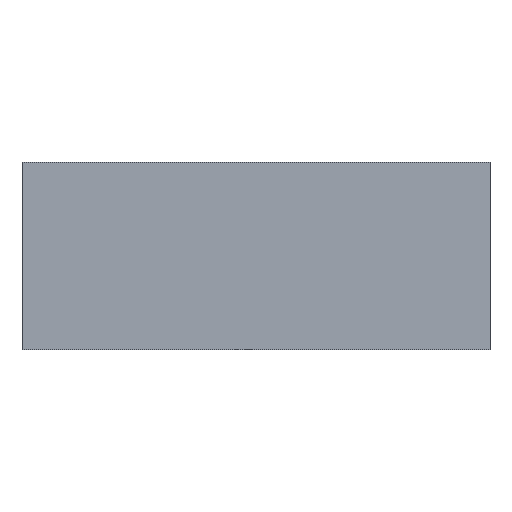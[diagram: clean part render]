
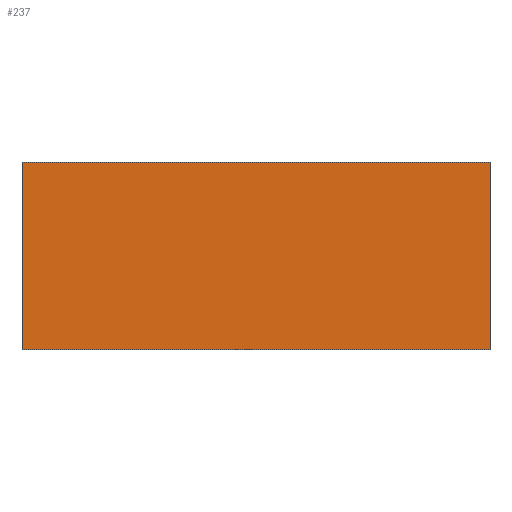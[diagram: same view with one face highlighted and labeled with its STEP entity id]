
A CAD part, front view. The second image highlights one B-rep face of the part: STEP entity #237.
In plain terms, the highlighted planar face has unit normal (0, -1, 0).
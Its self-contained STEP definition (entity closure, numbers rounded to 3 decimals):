
#21 = EDGE_CURVE('',#22,#24,#26,.T.);
#22 = VERTEX_POINT('',#23);
#23 = CARTESIAN_POINT('',(0.,0.,0.));
#24 = VERTEX_POINT('',#25);
#25 = CARTESIAN_POINT('',(0.,0.,10.));
#26 = SURFACE_CURVE('',#27,(#31,#43),.PCURVE_S1.);
#27 = LINE('',#28,#29);
#28 = CARTESIAN_POINT('',(0.,0.,0.));
#29 = VECTOR('',#30,1.);
#30 = DIRECTION('',(0.,0.,1.));
#31 = PCURVE('',#32,#37);
#32 = PLANE('',#33);
#33 = AXIS2_PLACEMENT_3D('',#34,#35,#36);
#34 = CARTESIAN_POINT('',(0.,0.,0.));
#35 = DIRECTION('',(1.,0.,0.));
#36 = DIRECTION('',(0.,0.,1.));
#37 = DEFINITIONAL_REPRESENTATION('',(#38),#42);
#38 = LINE('',#39,#40);
#39 = CARTESIAN_POINT('',(0.,0.));
#40 = VECTOR('',#41,1.);
#41 = DIRECTION('',(1.,0.));
#42 = ( GEOMETRIC_REPRESENTATION_CONTEXT(2) 
PARAMETRIC_REPRESENTATION_CONTEXT() REPRESENTATION_CONTEXT('2D SPACE',''
  ) );
#43 = PCURVE('',#44,#49);
#44 = PLANE('',#45);
#45 = AXIS2_PLACEMENT_3D('',#46,#47,#48);
#46 = CARTESIAN_POINT('',(0.,0.,0.));
#47 = DIRECTION('',(0.,1.,0.));
#48 = DIRECTION('',(0.,0.,1.));
#49 = DEFINITIONAL_REPRESENTATION('',(#50),#54);
#50 = LINE('',#51,#52);
#51 = CARTESIAN_POINT('',(0.,0.));
#52 = VECTOR('',#53,1.);
#53 = DIRECTION('',(1.,0.));
#54 = ( GEOMETRIC_REPRESENTATION_CONTEXT(2) 
PARAMETRIC_REPRESENTATION_CONTEXT() REPRESENTATION_CONTEXT('2D SPACE',''
  ) );
#72 = PLANE('',#73);
#73 = AXIS2_PLACEMENT_3D('',#74,#75,#76);
#74 = CARTESIAN_POINT('',(0.,0.,0.));
#75 = DIRECTION('',(0.,0.,1.));
#76 = DIRECTION('',(1.,0.,0.));
#126 = PLANE('',#127);
#127 = AXIS2_PLACEMENT_3D('',#128,#129,#130);
#128 = CARTESIAN_POINT('',(0.,0.,10.));
#129 = DIRECTION('',(0.,0.,1.));
#130 = DIRECTION('',(1.,0.,0.));
#141 = EDGE_CURVE('',#142,#144,#146,.T.);
#142 = VERTEX_POINT('',#143);
#143 = CARTESIAN_POINT('',(25.,0.,0.));
#144 = VERTEX_POINT('',#145);
#145 = CARTESIAN_POINT('',(25.,0.,10.));
#146 = SURFACE_CURVE('',#147,(#151,#163),.PCURVE_S1.);
#147 = LINE('',#148,#149);
#148 = CARTESIAN_POINT('',(25.,0.,0.));
#149 = VECTOR('',#150,1.);
#150 = DIRECTION('',(0.,0.,1.));
#151 = PCURVE('',#152,#157);
#152 = PLANE('',#153);
#153 = AXIS2_PLACEMENT_3D('',#154,#155,#156);
#154 = CARTESIAN_POINT('',(25.,0.,0.));
#155 = DIRECTION('',(1.,0.,0.));
#156 = DIRECTION('',(0.,0.,1.));
#157 = DEFINITIONAL_REPRESENTATION('',(#158),#162);
#158 = LINE('',#159,#160);
#159 = CARTESIAN_POINT('',(0.,0.));
#160 = VECTOR('',#161,1.);
#161 = DIRECTION('',(1.,0.));
#162 = ( GEOMETRIC_REPRESENTATION_CONTEXT(2) 
PARAMETRIC_REPRESENTATION_CONTEXT() REPRESENTATION_CONTEXT('2D SPACE',''
  ) );
#163 = PCURVE('',#44,#164);
#164 = DEFINITIONAL_REPRESENTATION('',(#165),#169);
#165 = LINE('',#166,#167);
#166 = CARTESIAN_POINT('',(0.,25.));
#167 = VECTOR('',#168,1.);
#168 = DIRECTION('',(1.,0.));
#169 = ( GEOMETRIC_REPRESENTATION_CONTEXT(2) 
PARAMETRIC_REPRESENTATION_CONTEXT() REPRESENTATION_CONTEXT('2D SPACE',''
  ) );
#237 = ADVANCED_FACE('',(#238),#44,.F.);
#238 = FACE_BOUND('',#239,.F.);
#239 = EDGE_LOOP('',(#240,#261,#262,#283));
#240 = ORIENTED_EDGE('',*,*,#241,.F.);
#241 = EDGE_CURVE('',#22,#142,#242,.T.);
#242 = SURFACE_CURVE('',#243,(#247,#254),.PCURVE_S1.);
#243 = LINE('',#244,#245);
#244 = CARTESIAN_POINT('',(0.,0.,0.));
#245 = VECTOR('',#246,1.);
#246 = DIRECTION('',(1.,0.,0.));
#247 = PCURVE('',#44,#248);
#248 = DEFINITIONAL_REPRESENTATION('',(#249),#253);
#249 = LINE('',#250,#251);
#250 = CARTESIAN_POINT('',(0.,0.));
#251 = VECTOR('',#252,1.);
#252 = DIRECTION('',(0.,1.));
#253 = ( GEOMETRIC_REPRESENTATION_CONTEXT(2) 
PARAMETRIC_REPRESENTATION_CONTEXT() REPRESENTATION_CONTEXT('2D SPACE',''
  ) );
#254 = PCURVE('',#72,#255);
#255 = DEFINITIONAL_REPRESENTATION('',(#256),#260);
#256 = LINE('',#257,#258);
#257 = CARTESIAN_POINT('',(0.,0.));
#258 = VECTOR('',#259,1.);
#259 = DIRECTION('',(1.,0.));
#260 = ( GEOMETRIC_REPRESENTATION_CONTEXT(2) 
PARAMETRIC_REPRESENTATION_CONTEXT() REPRESENTATION_CONTEXT('2D SPACE',''
  ) );
#261 = ORIENTED_EDGE('',*,*,#21,.T.);
#262 = ORIENTED_EDGE('',*,*,#263,.T.);
#263 = EDGE_CURVE('',#24,#144,#264,.T.);
#264 = SURFACE_CURVE('',#265,(#269,#276),.PCURVE_S1.);
#265 = LINE('',#266,#267);
#266 = CARTESIAN_POINT('',(0.,0.,10.));
#267 = VECTOR('',#268,1.);
#268 = DIRECTION('',(1.,0.,0.));
#269 = PCURVE('',#44,#270);
#270 = DEFINITIONAL_REPRESENTATION('',(#271),#275);
#271 = LINE('',#272,#273);
#272 = CARTESIAN_POINT('',(10.,0.));
#273 = VECTOR('',#274,1.);
#274 = DIRECTION('',(0.,1.));
#275 = ( GEOMETRIC_REPRESENTATION_CONTEXT(2) 
PARAMETRIC_REPRESENTATION_CONTEXT() REPRESENTATION_CONTEXT('2D SPACE',''
  ) );
#276 = PCURVE('',#126,#277);
#277 = DEFINITIONAL_REPRESENTATION('',(#278),#282);
#278 = LINE('',#279,#280);
#279 = CARTESIAN_POINT('',(0.,0.));
#280 = VECTOR('',#281,1.);
#281 = DIRECTION('',(1.,0.));
#282 = ( GEOMETRIC_REPRESENTATION_CONTEXT(2) 
PARAMETRIC_REPRESENTATION_CONTEXT() REPRESENTATION_CONTEXT('2D SPACE',''
  ) );
#283 = ORIENTED_EDGE('',*,*,#141,.F.);
